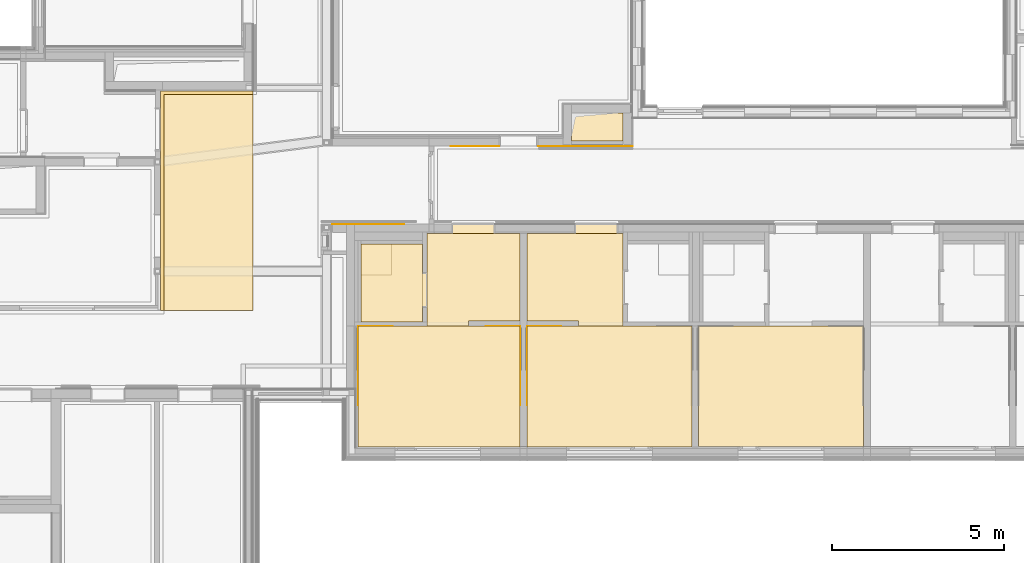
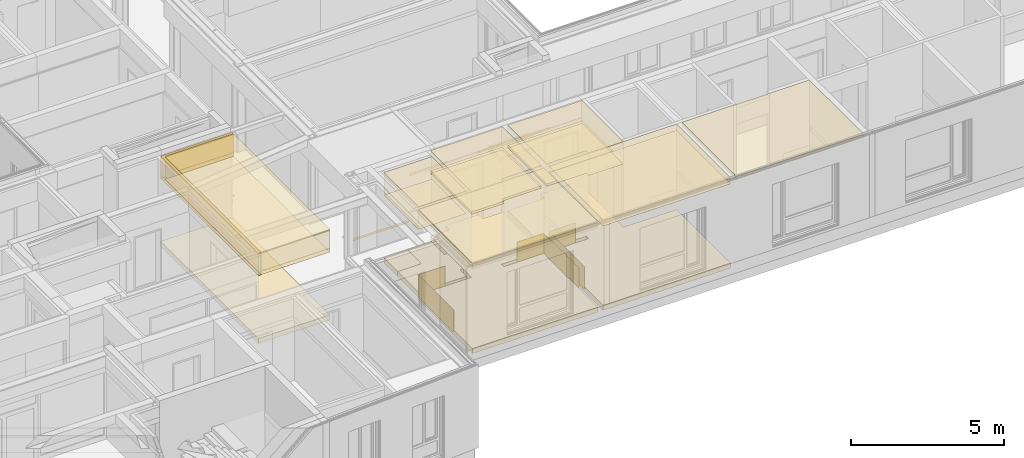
# One storey, part 178 of 207: 41 coverings.
"""IFC4 building model written with IfcOpenShell, lengths in metres."""

import ifcopenshell
import ifcopenshell.guid

model = None  # the IFC model being written
_history = None  # IfcOwnerHistory: only IFC2X3 demands one
_inside = {}  # id of a spatial element -> (the spatial element, [elements in it])
_under = {}  # id of a project, library or spatial element -> (it, [spatial elements below it])
_declared = {}  # id of a project -> (the project, [libraries it declares])
_typed = {}  # id of a type object -> (the type object, [elements of that type])
_made_of = {}  # id of a material, layer set ... -> (it, [elements and type objects made of it])


def new_model(schema):
    """Start an empty IFC model of exactly this schema.

    Asked for "IFC4X3", IfcOpenShell would pick the latest addendum, in which some entities
    have other attributes; the version numbers below select the first issue.
    IFC2X3 requires an IfcOwnerHistory on every rooted entity: one is made here for all.
    """
    global model, _history
    if schema == "IFC4X3":
        model = ifcopenshell.file(schema_version=(4, 3, 0, 0))
    else:
        model = ifcopenshell.file(schema=schema)
    _inside.clear()
    _under.clear()
    _declared.clear()
    _typed.clear()
    _made_of.clear()
    _history = None
    if model.schema == "IFC2X3":
        org = make("IfcOrganization", Name="unknown")
        user = make(
            "IfcPersonAndOrganization",
            ThePerson=make("IfcPerson", FamilyName="unknown"),
            TheOrganization=org,
        )
        app = make(
            "IfcApplication",
            ApplicationDeveloper=org,
            Version="unknown",
            ApplicationFullName="unknown",
            ApplicationIdentifier="unknown",
        )
        _history = make(
            "IfcOwnerHistory",
            OwningUser=user,
            OwningApplication=app,
            ChangeAction="ADDED",
            CreationDate=0,
        )
    return model


def make(cls, **values):
    """One entity of the class cls with the attributes given. An attribute that is None is left unset."""
    return model.create_entity(
        cls, **{name: value for name, value in values.items() if value is not None}
    )


def entity(cls, *values):
    """Any entity or typed value of the class cls, its attributes in the order of the schema. None: left unset."""
    e = model.create_entity(cls)
    for i, value in enumerate(values):
        if value is not None:
            e[i] = value
    return e


def rooted(cls, **values):
    """An entity with a GlobalId (a new one), such as an element, a storey or a relation."""
    return make(cls, GlobalId=ifcopenshell.guid.new(), OwnerHistory=_history, **values)


def si_unit(unit_type, name, prefix=None):
    """IfcSIUnit, for example si_unit("LENGTHUNIT", "METRE", prefix="MILLI")."""
    return make("IfcSIUnit", UnitType=unit_type, Prefix=prefix, Name=name)


def converted_unit(unit_type, name, factor, base, dimensions=None, offset=None):
    """IfcConversionBasedUnit, such as the inch: factor (a typed value) times the base unit."""
    return make(
        "IfcConversionBasedUnit"
        if offset is None
        else "IfcConversionBasedUnitWithOffset",
        ConversionOffset=offset,
        Dimensions=None
        if dimensions is None
        else entity("IfcDimensionalExponents", *dimensions),
        UnitType=unit_type,
        Name=name,
        ConversionFactor=make(
            "IfcMeasureWithUnit", ValueComponent=factor, UnitComponent=base
        ),
    )


def derived_unit(unit_type, elements):
    """IfcDerivedUnit: a product of units, each with its exponent."""
    return make(
        "IfcDerivedUnit",
        Elements=[
            make("IfcDerivedUnitElement", Unit=unit, Exponent=power)
            for unit, power in elements
        ],
        UnitType=unit_type,
    )


def assignment(units):
    """IfcUnitAssignment: the units of a project."""
    return None if units is None else make("IfcUnitAssignment", Units=units)


def point(xyz):
    """IfcCartesianPoint."""
    return None if xyz is None else make("IfcCartesianPoint", Coordinates=xyz)


def direction(xyz):
    """IfcDirection."""
    return None if xyz is None else make("IfcDirection", DirectionRatios=xyz)


def frame(location, z_axis=None, x_axis=None):
    """IfcAxis2Placement3D, a coordinate frame: its origin and axes. An axis left out is left unset."""
    return make(
        "IfcAxis2Placement3D",
        Location=point(location),
        Axis=direction(z_axis),
        RefDirection=direction(x_axis),
    )


def frame_2d(location, x_axis=None):
    """IfcAxis2Placement2D, a coordinate frame in the plane: its origin and x axis."""
    return make(
        "IfcAxis2Placement2D", Location=point(location), RefDirection=direction(x_axis)
    )


def origin():
    """The frame at (0, 0, 0) with its axes left unset."""
    return frame((0.0, 0.0, 0.0))


def origin_with_axes():
    """The frame at (0, 0, 0) with the z axis (0, 0, 1) and the x axis (1, 0, 0) written out."""
    return frame((0.0, 0.0, 0.0), z_axis=(0.0, 0.0, 1.0), x_axis=(1.0, 0.0, 0.0))


def place(relative_to, where):
    """IfcLocalPlacement: puts the frame where relative to a parent placement (None: the world)."""
    return make(
        "IfcLocalPlacement", PlacementRelTo=relative_to, RelativePlacement=where
    )


def context(
    kind, dimensions, precision=None, world=None, true_north=None, identifier=None
):
    """IfcGeometricRepresentationContext, for example the 3D "Model" context."""
    return make(
        "IfcGeometricRepresentationContext",
        ContextIdentifier=identifier,
        ContextType=kind,
        CoordinateSpaceDimension=dimensions,
        Precision=precision,
        WorldCoordinateSystem=world,
        TrueNorth=true_north,
    )


def subcontext(parent, identifier, kind, view, scale=None):
    """IfcGeometricRepresentationSubContext, for example "Body" below "Model"."""
    return make(
        "IfcGeometricRepresentationSubContext",
        ContextIdentifier=identifier,
        ContextType=kind,
        ParentContext=parent,
        TargetScale=scale,
        TargetView=view,
    )


def project(units=None, contexts=None):
    """IfcProject with its units and contexts."""
    return rooted(
        "IfcProject",
        Name="project",
        RepresentationContexts=contexts,
        UnitsInContext=assignment(units),
    )


def spatial(cls, under=None, at=None, **own):
    """A site, building, storey or space (cls), placed at a placement, below another one or the project."""
    s = rooted(cls, ObjectPlacement=at, **own)
    if under is not None:
        _under.setdefault(under.id(), (under, []))[1].append(s)
    return s


def polyline(points):
    """IfcPolyline through the points."""
    return make("IfcPolyline", Points=[point(p) for p in points])


def profile(cls, at=None, kind="AREA", **sizes):
    """A parametric profile (cls). Its sizes go by their IFC names, for example OverallWidth=200.0."""
    return make(cls, ProfileType=kind, Position=at, **sizes)


def rectangle(**sizes):
    """IfcRectangleProfileDef."""
    return profile("IfcRectangleProfileDef", **sizes)


def outline(outer, holes=None, kind="AREA"):
    """IfcArbitraryClosedProfileDef: a profile drawn as a closed curve; with holes, ...WithVoids."""
    if holes is None:
        return make("IfcArbitraryClosedProfileDef", ProfileType=kind, OuterCurve=outer)
    return make(
        "IfcArbitraryProfileDefWithVoids",
        ProfileType=kind,
        OuterCurve=outer,
        InnerCurves=holes,
    )


def extrude(swept, where, along, depth):
    """IfcExtrudedAreaSolid: the profile swept, set in the frame where, extruded along a direction by depth."""
    return make(
        "IfcExtrudedAreaSolid",
        SweptArea=swept,
        Position=where,
        ExtrudedDirection=direction(along),
        Depth=depth,
    )


def shape(context_of_items, identifier, shape_type, items):
    """IfcShapeRepresentation: the items that make up one representation, for example the "Body"."""
    return make(
        "IfcShapeRepresentation",
        ContextOfItems=context_of_items,
        RepresentationIdentifier=identifier,
        RepresentationType=shape_type,
        Items=items,
    )


def material(Name=None, Category=None):
    """IfcMaterial."""
    return make("IfcMaterial", Name=Name, Category=Category)


def layer(
    of_material, thickness, ventilated=None, Name=None, Category=None, Priority=None
):
    """IfcMaterialLayer: one layer of a wall or slab, of a material (None: an air gap)."""
    return make(
        "IfcMaterialLayer",
        Material=of_material,
        LayerThickness=thickness,
        IsVentilated=ventilated,
        Name=Name,
        Category=Category,
        Priority=Priority,
    )


def layer_set(layers, Name=None):
    """IfcMaterialLayerSet."""
    return make("IfcMaterialLayerSet", MaterialLayers=layers, LayerSetName=Name)


def layer_usage(for_layer_set, set_direction, sense, offset, extent=None):
    """IfcMaterialLayerSetUsage: how a layer set lies in its element."""
    return make(
        "IfcMaterialLayerSetUsage",
        ForLayerSet=for_layer_set,
        LayerSetDirection=set_direction,
        DirectionSense=sense,
        OffsetFromReferenceLine=offset,
        ReferenceExtent=extent,
    )


def made_of(thing, what):
    """Note that an element or type object is made of a material, layer set ...; save() writes the relation."""
    if what is not None:
        _made_of.setdefault(what.id(), (what, []))[1].append(thing)
    return thing


def element(
    cls,
    number,
    at=None,
    inside=None,
    cuts=None,
    type_object=None,
    material=None,
    context=None,
    identifier="Body",
    shape_type=None,
    held_by="IfcProductDefinitionShape",
    body=None,
    shapes=None,
    **own,
):
    """One element of the class cls, such as IfcWall. Its Tag is "e" and its number.

    at: its placement. inside: the storey or other place that contains it. cuts: it is an
    opening in that element (IfcRelVoidsElement). A single representation is given by context,
    identifier, shape_type and body (its items); several are given by shapes. held_by: the class
    of the entity that holds the representations. save() writes the other relations.
    """
    e = rooted(cls, Tag="e%d" % number, ObjectPlacement=at, **own)
    if body is not None:
        shapes = [shape(context, identifier, shape_type, body)]
    if shapes is not None:
        e.Representation = make(held_by, Representations=shapes)
    if inside is not None:
        _inside.setdefault(inside.id(), (inside, []))[1].append(e)
    if cuts is not None:
        rooted(
            "IfcRelVoidsElement", RelatingBuildingElement=cuts, RelatedOpeningElement=e
        )
    if type_object is not None:
        _typed.setdefault(type_object.id(), (type_object, []))[1].append(e)
    return made_of(e, material)


def aggregate(whole, parts):
    """IfcRelAggregates: a whole, such as a stair, and the parts it consists of."""
    return rooted("IfcRelAggregates", RelatingObject=whole, RelatedObjects=parts)


def save(model, path):
    """Write the relations noted so far, then the file.

    IfcRelAggregates (storeys below a building ...), IfcRelContainedInSpatialStructure (elements
    in a storey), IfcRelDefinesByType, IfcRelAssociatesMaterial and IfcRelDeclares: one each for
    every whole, place, type object, material and project.
    """
    for whole, parts in _under.values():
        aggregate(whole, parts)
    for where, things in _inside.values():
        rooted(
            "IfcRelContainedInSpatialStructure",
            RelatedElements=things,
            RelatingStructure=where,
        )
    for kind, things in _typed.values():
        rooted("IfcRelDefinesByType", RelatedObjects=things, RelatingType=kind)
    for what, things in _made_of.values():
        rooted("IfcRelAssociatesMaterial", RelatedObjects=things, RelatingMaterial=what)
    for by, libraries in _declared.values():
        rooted("IfcRelDeclares", RelatingContext=by, RelatedDefinitions=libraries)
    model.write(path)


model = new_model("IFC4")

# Units and contexts
model_context = context("Model", 3, precision=1e-05, world=origin())
body_context = subcontext(model_context, "Body", "Model", "MODEL_VIEW")
ifc_project = project(units=[si_unit("LENGTHUNIT", "METRE"), si_unit("AREAUNIT", "SQUARE_METRE"), si_unit("VOLUMEUNIT", "CUBIC_METRE"), si_unit("MASSUNIT", "GRAM", prefix="KILO"), converted_unit("PLANEANGLEUNIT", "DEGREE", entity("IfcPlaneAngleMeasure", 0.0174532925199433), si_unit("PLANEANGLEUNIT", "RADIAN"), dimensions=[0, 0, 0, 0, 0, 0, 0]), derived_unit("THERMALTRANSMITTANCEUNIT", [(si_unit("POWERUNIT", "WATT"), 1), (si_unit("THERMODYNAMICTEMPERATUREUNIT", "KELVIN"), -1), (si_unit("LENGTHUNIT", "METRE"), -2)]), derived_unit("VOLUMETRICFLOWRATEUNIT", [(si_unit("LENGTHUNIT", "METRE"), 3), (converted_unit("TIMEUNIT", "hour", entity("IfcTimeMeasure", 3600.0), si_unit("TIMEUNIT", "SECOND"), dimensions=[0, 0, 1, 0, 0, 0, 0]), -1), (si_unit("LENGTHUNIT", "METRE"), -1)])], contexts=[model_context])

# Site, building, storey
site_placement = place(None, origin())
site = spatial("IfcSite", under=ifc_project, at=site_placement, Name="Psychiatrie Neubau Wunstorf", CompositionType="ELEMENT")
building_placement = place(site_placement, origin())
building = spatial("IfcBuilding", under=site, at=building_placement, Name="Neubau H2 Stationsgebäude", CompositionType="ELEMENT")
storey_placement = place(building_placement, frame((0.0, 0.0, -0.2)))
storey = spatial("IfcBuildingStorey", under=building, at=storey_placement, Name="H2 Ebene 0", CompositionType="ELEMENT", Elevation=-0.2)

# Covering
ifc_material_1 = material(Name="SE")
ifc_layer_1 = layer(ifc_material_1, 0.19)
ifc_layer_set_1 = layer_set([ifc_layer_1])
ifc_layer_usage_1 = layer_usage(ifc_layer_set_1, "AXIS3", "POSITIVE", 0.0)
covering_1_placement = place(storey_placement, frame((77.4, 7.7575, 0.0)))
element("IfcCovering", 1, at=covering_1_placement, inside=storey, material=ifc_layer_usage_1, Name="Estrich", PredefinedType="FLOORING", context=body_context, shape_type="SweptSolid", body=[
    extrude(rectangle(XDim=0.8175, YDim=1.5, at=frame_2d((0.75, -0.40875), x_axis=(0.0, -1.0))), frame((0.0, 0.8175, 0.0), z_axis=(0.0, 0.0, 1.0), x_axis=(1.0, 0.0, 0.0)), (0.0, 0.0, 1.0), 0.19),
])

# Space
space_1_placement = place(storey_placement, frame((59.7893138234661, 0.53600244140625, 0.0)))
space_1 = spatial("IfcSpace", under=storey, at=space_1_placement, Name="WUN-H2-E00-F07", CompositionType="ELEMENT")

# Covering
ifc_material_2 = material(Name="97")
ifc_layer_2 = layer(ifc_material_2, 0.001)
ifc_layer_set_2 = layer_set([ifc_layer_2])
ifc_layer_usage_2 = layer_usage(ifc_layer_set_2, "AXIS3", "POSITIVE", 0.0)
covering_2_placement = place(space_1_placement, frame((10.6406861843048, 4.79649755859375, 0.8)))
element("IfcCovering", 2, at=covering_2_placement, inside=space_1, material=ifc_layer_usage_2, Name="Handlauf", PredefinedType="CLADDING", context=body_context, shape_type="SweptSolid", body=[
    extrude(rectangle(XDim=0.1, YDim=2.09999999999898, at=frame_2d((1.04999999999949, 0.05), x_axis=(0.0, 1.0))), frame((0.0, 0.0, 0.1), z_axis=(0.0, 1.0, 0.0), x_axis=(1.0, 0.0, 0.0)), (0.0, 0.0, 1.0), 0.001),
])

# Space
space_2_placement = place(storey_placement, frame((73.3949999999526, 5.3325, 0.0)))
space_2 = spatial("IfcSpace", under=storey, at=space_2_placement, Name="WUN-H2-E00-F11", CompositionType="ELEMENT")

# Covering
ifc_material_3 = material(Name="97")
ifc_layer_3 = layer(ifc_material_3, 0.001)
ifc_layer_set_3 = layer_set([ifc_layer_3])
ifc_layer_usage_3 = layer_usage(ifc_layer_set_3, "AXIS3", "POSITIVE", 0.0)
covering_3_placement = place(space_2_placement, frame((0.490000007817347, 2.27500000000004, 0.8)))
element("IfcCovering", 3, at=covering_3_placement, inside=space_2, material=ifc_layer_usage_3, Name="Handlauf", PredefinedType="CLADDING", context=body_context, shape_type="SweptSolid", body=[
    extrude(rectangle(XDim=0.1, YDim=2.75999962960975, at=frame_2d((1.37999981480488, 0.05), x_axis=(0.0, 1.0))), frame((5.29499962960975, 0.0, 0.1), z_axis=(-1.64763555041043e-16, -1.0, -4.54747350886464e-15), x_axis=(-1.0, 1.64763555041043e-16, 0.0)), (0.0, 0.0, 1.0), 0.001),
    extrude(rectangle(XDim=0.1, YDim=1.4, at=frame_2d((0.7, 0.05), x_axis=(0.0, 1.0))), frame((1.4, 0.0, 0.1), z_axis=(6.49639072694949e-16, -1.0, 0.0), x_axis=(-1.0, -6.49639072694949e-16, 0.0)), (0.0, 0.0, 1.0), 0.001),
])

# Space
space_3_placement = place(storey_placement, frame((71.2575, 2.48549999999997, 0.0)))
space_3 = spatial("IfcSpace", under=storey, at=space_3_placement, Name="WUN-H2-E00-096a", CompositionType="ELEMENT")

# Coverings
ifc_material_4 = material(Name="Fl1")
ifc_layer_4 = layer(ifc_material_4, 0.2)
ifc_layer_set_4 = layer_set([ifc_layer_4])
ifc_layer_usage_4 = layer_usage(ifc_layer_set_4, "AXIS3", "POSITIVE", 0.0)
covering_4_placement = place(space_3_placement, origin())
element("IfcCovering", 4, at=covering_4_placement, inside=space_3, material=ifc_layer_usage_4, Name="Fliesen", PredefinedType="FLOORING", context=body_context, shape_type="SweptSolid", body=[
    extrude(rectangle(XDim=0.125, YDim=1.01, at=frame_2d((-0.0625, -0.505), x_axis=(-1.0, 0.0))), frame((1.93, 1.43500000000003, 0.0), z_axis=(0.0, 0.0, 1.0), x_axis=(1.0, 0.0, 0.0)), (0.0, 0.0, 1.0), 0.2),
    extrude(outline(polyline([(0.0, 1.365), (0.0, 0.0), (1.805, 0.0), (1.805, 2.265), (0.9, 2.265), (0.9, 1.365), (0.0, 1.365)])), origin_with_axes(), (0.0, 0.0, 1.0), 0.2),
])
ifc_material_5 = material(Name="Fl2")
ifc_layer_5 = layer(ifc_material_5, 0.2)
ifc_layer_set_5 = layer_set([ifc_layer_5])
ifc_layer_usage_5 = layer_usage(ifc_layer_set_5, "AXIS3", "POSITIVE", 0.0)
covering_5_placement = place(space_3_placement, frame((0.0, 1.365, 0.0)))
element("IfcCovering", 5, at=covering_5_placement, inside=space_3, material=ifc_layer_usage_5, Name="Fliesen Mosaik", PredefinedType="FLOORING", context=body_context, shape_type="SweptSolid", body=[
    extrude(rectangle(XDim=0.9, YDim=0.9, at=frame_2d((0.45, -0.45), x_axis=(0.0, -1.0))), frame((0.0, 0.9, 0.0), z_axis=(0.0, 0.0, 1.0), x_axis=(1.0, 0.0, 0.0)), (0.0, 0.0, 1.0), 0.2),
])
ifc_material_6 = material()
ifc_layer_6 = layer(ifc_material_6, 0.036)
ifc_layer_set_6 = layer_set([ifc_layer_6])
ifc_layer_usage_6 = layer_usage(ifc_layer_set_6, "AXIS3", "POSITIVE", 0.0)
covering_6_placement = place(space_3_placement, frame((0.0, 0.0, 3.6)))
element("IfcCovering", 6, at=covering_6_placement, inside=space_3, material=ifc_layer_usage_6, Name="Gipsfaserplatten 2-lagig (BSK)", PredefinedType="CEILING", context=body_context, shape_type="SweptSolid", body=[
    extrude(rectangle(XDim=1.805, YDim=2.26499999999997, at=frame_2d((0.9025, 1.13249999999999), x_axis=(1.0, 0.0))), frame((0.0, 2.265, 0.0), z_axis=(0.0, 0.0, -1.0), x_axis=(1.0, 0.0, 0.0)), (0.0, 0.0, 1.0), 0.036),
])
ifc_material_7 = material(Name="Installationshöhe")
ifc_layer_7 = layer(ifc_material_7, 0.764)
ifc_layer_set_7 = layer_set([ifc_layer_7])
ifc_layer_usage_7 = layer_usage(ifc_layer_set_7, "AXIS3", "POSITIVE", 0.0)
covering_7_placement = place(space_3_placement, frame((0.0, 0.0, 3.564)))
element("IfcCovering", 7, at=covering_7_placement, inside=space_3, material=ifc_layer_usage_7, Name="Gipsfaserplatten 2-lagig (BSK)", PredefinedType="CEILING", context=body_context, shape_type="SweptSolid", body=[
    extrude(rectangle(XDim=1.805, YDim=2.26499999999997, at=frame_2d((0.9025, 1.13249999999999), x_axis=(1.0, 0.0))), frame((0.0, 2.265, 0.0), z_axis=(0.0, 0.0, -1.0), x_axis=(1.0, 0.0, 0.0)), (0.0, 0.0, 1.0), 0.764),
])
ifc_material_8 = material(Name="B")
ifc_layer_8 = layer(ifc_material_8, 0.1)
ifc_layer_set_8 = layer_set([ifc_layer_8])
ifc_layer_usage_8 = layer_usage(ifc_layer_set_8, "AXIS3", "POSITIVE", 0.0)
covering_8_placement = place(space_3_placement, frame((0.0, 0.0, 2.8)))
element("IfcCovering", 8, at=covering_8_placement, inside=space_3, material=ifc_layer_usage_8, Name="Gipskarton, imprägniert", PredefinedType="CEILING", context=body_context, shape_type="SweptSolid", body=[
    extrude(rectangle(XDim=1.805, YDim=2.26499999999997, at=frame_2d((0.9025, 1.13249999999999), x_axis=(1.0, 0.0))), frame((0.0, 2.265, 0.0), z_axis=(0.0, 0.0, -1.0), x_axis=(1.0, 0.0, 0.0)), (0.0, 0.0, 1.0), 0.1),
])
ifc_material_9 = material(Name="D1")
ifc_layer_9 = layer(ifc_material_9, 0.001)
ifc_layer_set_9 = layer_set([ifc_layer_9])
ifc_layer_usage_9 = layer_usage(ifc_layer_set_9, "AXIS3", "POSITIVE", 0.0)
covering_9_placement = place(space_3_placement, frame((0.0, 0.0, 2.7)))
element("IfcCovering", 9, at=covering_9_placement, inside=space_3, material=ifc_layer_usage_9, Name="Gipsfaserplatten 2-lagig (BSK)", PredefinedType="CEILING", context=body_context, shape_type="SweptSolid", body=[
    extrude(rectangle(XDim=1.805, YDim=2.26499999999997, at=frame_2d((0.9025, 1.13249999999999), x_axis=(1.0, 0.0))), frame((0.0, 2.265, 0.0), z_axis=(0.0, 0.0, -1.0), x_axis=(1.0, 0.0, 0.0)), (0.0, 0.0, 1.0), 0.001),
])

# Space
space_4_placement = place(storey_placement, frame((65.4249963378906, 2.8174996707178, 0.0)))
space_4 = spatial("IfcSpace", under=storey, at=space_4_placement, Name="WUN-H2-E00-F09b", CompositionType="ELEMENT")

# Coverings
ifc_material_10 = material(Name="Ku1")
ifc_layer_10 = layer(ifc_material_10, 0.2)
ifc_layer_set_10 = layer_set([ifc_layer_10])
ifc_layer_usage_10 = layer_usage(ifc_layer_set_10, "AXIS3", "POSITIVE", 0.0)
covering_10_placement = place(space_4_placement, origin())
element("IfcCovering", 10, at=covering_10_placement, inside=space_4, material=ifc_layer_usage_10, Name="PVC Bahnenware Holzoptik", PredefinedType="FLOORING", context=body_context, shape_type="SweptSolid", body=[
    extrude(rectangle(XDim=6.38750038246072, YDim=2.69250366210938, at=frame_2d((1.34625183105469, -3.19375018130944), x_axis=(0.0, -1.0))), frame((0.0, 6.38750038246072, 0.0), z_axis=(0.0, 0.0, 1.0), x_axis=(1.0, 0.0, 0.0)), (0.0, 0.0, 1.0), 0.2),
])
ifc_material_11 = material()
ifc_layer_11 = layer(ifc_material_11, 0.036)
ifc_layer_set_11 = layer_set([ifc_layer_11])
ifc_layer_usage_11 = layer_usage(ifc_layer_set_11, "AXIS3", "POSITIVE", 0.0)
covering_11_placement = place(space_4_placement, frame((0.1, 0.0, 3.6)))
element("IfcCovering", 11, at=covering_11_placement, inside=space_4, material=ifc_layer_usage_11, Name="Gipsfaserplatten 2-lagig (BSK)", PredefinedType="CEILING", context=body_context, shape_type="SweptSolid", body=[
    extrude(rectangle(XDim=6.28750036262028, YDim=2.59250366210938, at=frame_2d((-1.29625183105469, 3.14375019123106), x_axis=(0.0, 1.0))), frame((2.59250366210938, 6.28750038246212, 0.0), z_axis=(0.0, 0.0, -1.0), x_axis=(1.0, 0.0, 0.0)), (0.0, 0.0, 1.0), 0.036),
])
ifc_material_12 = material(Name="Installationshöhe")
ifc_layer_12 = layer(ifc_material_12, 0.714)
ifc_layer_set_12 = layer_set([ifc_layer_12])
ifc_layer_usage_12 = layer_usage(ifc_layer_set_12, "AXIS3", "POSITIVE", 0.0)
covering_12_placement = place(space_4_placement, frame((0.1, 0.0, 3.564)))
element("IfcCovering", 12, at=covering_12_placement, inside=space_4, material=ifc_layer_usage_12, Name="Gipsfaserplatten 2-lagig (BSK)", PredefinedType="CEILING", context=body_context, shape_type="SweptSolid", body=[
    extrude(rectangle(XDim=6.28750036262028, YDim=2.59250366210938, at=frame_2d((-1.29625183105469, 3.14375019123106), x_axis=(0.0, 1.0))), frame((2.59250366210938, 6.28750038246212, 0.0), z_axis=(0.0, 0.0, -1.0), x_axis=(1.0, 0.0, 0.0)), (0.0, 0.0, 1.0), 0.714),
])
ifc_material_13 = material(Name="Aa")
ifc_layer_13 = layer(ifc_material_13, 0.15)
ifc_layer_set_13 = layer_set([ifc_layer_13])
ifc_layer_usage_13 = layer_usage(ifc_layer_set_13, "AXIS3", "POSITIVE", 0.0)
covering_13_placement = place(space_4_placement, frame((0.1, 0.0, 2.85)))
element("IfcCovering", 13, at=covering_13_placement, inside=space_4, material=ifc_layer_usage_13, Name="Gipsfaserplatten 2-lagig (BSK)", PredefinedType="CEILING", context=body_context, shape_type="SweptSolid", body=[
    extrude(rectangle(XDim=6.28750036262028, YDim=2.59250366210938, at=frame_2d((-1.29625183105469, 3.14375019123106), x_axis=(0.0, 1.0))), frame((2.59250366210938, 6.28750038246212, 0.0), z_axis=(0.0, 0.0, -1.0), x_axis=(1.0, 0.0, 0.0)), (0.0, 0.0, 1.0), 0.15),
])
ifc_material_14 = material(Name="D1")
ifc_layer_14 = layer(ifc_material_14, 0.001)
ifc_layer_set_14 = layer_set([ifc_layer_14])
ifc_layer_usage_14 = layer_usage(ifc_layer_set_14, "AXIS3", "POSITIVE", 0.0)
covering_14_placement = place(space_4_placement, frame((0.1, 0.0, 2.7)))
element("IfcCovering", 14, at=covering_14_placement, inside=space_4, material=ifc_layer_usage_14, Name="Gipsfaserplatten 2-lagig (BSK)", PredefinedType="CEILING", context=body_context, shape_type="SweptSolid", body=[
    extrude(rectangle(XDim=6.28750036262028, YDim=2.59250366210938, at=frame_2d((-1.29625183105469, 3.14375019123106), x_axis=(0.0, 1.0))), frame((2.59250366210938, 6.28750038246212, 0.0), z_axis=(0.0, 0.0, -1.0), x_axis=(1.0, 0.0, 0.0)), (0.0, 0.0, 1.0), 0.001),
])
ifc_material_15 = material()
ifc_layer_15 = layer(ifc_material_15, 0.036)
ifc_layer_set_15 = layer_set([ifc_layer_15])
ifc_layer_usage_15 = layer_usage(ifc_layer_set_15, "AXIS3", "POSITIVE", 0.0)
covering_15_placement = place(space_4_placement, frame((0.0, 0.0, 3.6)))
element("IfcCovering", 15, at=covering_15_placement, inside=space_4, material=ifc_layer_usage_15, Name="Gipsfaserplatten 2-lagig (BSK)", PredefinedType="CEILING", context=body_context, shape_type="SweptSolid", body=[
    extrude(outline(polyline([(0.0, 6.38750038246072), (0.0, 0.0), (2.69250366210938, 0.0), (2.69250366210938, 0.0999999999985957), (0.1, 0.0999999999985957), (0.1, 6.38750038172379), (0.0, 6.38750038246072)])), frame((0.0, 6.38750038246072, 0.0), z_axis=(0.0, 0.0, -1.0), x_axis=(1.0, 0.0, 0.0)), (0.0, 0.0, 1.0), 0.036),
])
ifc_material_16 = material(Name="Installationshöhe")
ifc_layer_16 = layer(ifc_material_16, 0.714)
ifc_layer_set_16 = layer_set([ifc_layer_16])
ifc_layer_usage_16 = layer_usage(ifc_layer_set_16, "AXIS3", "POSITIVE", 0.0)
covering_16_placement = place(space_4_placement, frame((0.0, 0.0, 3.564)))
element("IfcCovering", 16, at=covering_16_placement, inside=space_4, material=ifc_layer_usage_16, Name="Gipsfaserplatten 2-lagig (BSK)", PredefinedType="CEILING", context=body_context, shape_type="SweptSolid", body=[
    extrude(outline(polyline([(0.0, 6.38750038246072), (0.0, 0.0), (2.69250366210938, 0.0), (2.69250366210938, 0.0999999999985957), (0.1, 0.0999999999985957), (0.1, 6.38750038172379), (0.0, 6.38750038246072)])), frame((0.0, 6.38750038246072, 0.0), z_axis=(0.0, 0.0, -1.0), x_axis=(1.0, 0.0, 0.0)), (0.0, 0.0, 1.0), 0.714),
])
ifc_material_17 = material(Name="A1")
ifc_layer_17 = layer(ifc_material_17, 0.15)
ifc_layer_set_17 = layer_set([ifc_layer_17])
ifc_layer_usage_17 = layer_usage(ifc_layer_set_17, "AXIS3", "POSITIVE", 0.0)
covering_17_placement = place(space_4_placement, frame((0.0, 0.0, 2.85)))
element("IfcCovering", 17, at=covering_17_placement, inside=space_4, material=ifc_layer_usage_17, Name="Gipsfaserplatten 2-lagig (BSK)", PredefinedType="CEILING", context=body_context, shape_type="SweptSolid", body=[
    extrude(outline(polyline([(0.0, 6.38750038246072), (0.0, 0.0), (2.69250366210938, 0.0), (2.69250366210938, 0.0999999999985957), (0.1, 0.0999999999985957), (0.1, 6.38750038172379), (0.0, 6.38750038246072)])), frame((0.0, 6.38750038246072, 0.0), z_axis=(0.0, 0.0, -1.0), x_axis=(1.0, 0.0, 0.0)), (0.0, 0.0, 1.0), 0.15),
])
ifc_material_18 = material(Name="D1")
ifc_layer_18 = layer(ifc_material_18, 0.001)
ifc_layer_set_18 = layer_set([ifc_layer_18])
ifc_layer_usage_18 = layer_usage(ifc_layer_set_18, "AXIS3", "POSITIVE", 0.0)
covering_18_placement = place(space_4_placement, frame((0.0, 0.0, 2.7)))
element("IfcCovering", 18, at=covering_18_placement, inside=space_4, material=ifc_layer_usage_18, Name="Gipsfaserplatten 2-lagig (BSK)", PredefinedType="CEILING", context=body_context, shape_type="SweptSolid", body=[
    extrude(outline(polyline([(0.0, 6.38750038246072), (0.0, 0.0), (2.69250366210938, 0.0), (2.69250366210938, 0.0999999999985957), (0.1, 0.0999999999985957), (0.1, 6.38750038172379), (0.0, 6.38750038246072)])), frame((0.0, 6.38750038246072, 0.0), z_axis=(0.0, 0.0, -1.0), x_axis=(1.0, 0.0, 0.0)), (0.0, 0.0, 1.0), 0.001),
])

# Space
space_5_placement = place(storey_placement, frame((71.1825, -1.16399999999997, 0.0)))
space_5 = spatial("IfcSpace", under=storey, at=space_5_placement, Name="WUN-H2-E00-096", CompositionType="ELEMENT")

# Coverings
ifc_material_19 = material(Name="84")
ifc_layer_19 = layer(ifc_material_19, 0.001)
ifc_layer_set_19 = layer_set([ifc_layer_19])
ifc_layer_usage_19 = layer_usage(ifc_layer_set_19, "AXIS3", "POSITIVE", 0.0)
covering_19_placement = place(space_5_placement, frame((3.7175, 1.22450000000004, 0.1)))
element("IfcCovering", 19, at=covering_19_placement, inside=space_5, material=ifc_layer_usage_19, Name="Acrobyn", PredefinedType="CLADDING", context=body_context, shape_type="SweptSolid", body=[
    extrude(rectangle(XDim=0.9, YDim=1.0, at=frame_2d((-0.5, -0.45), x_axis=(0.0, -1.0))), frame((0.0, 2.3, 0.0), z_axis=(4.54747350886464e-16, -1.0, 0.0), x_axis=(-1.0, -4.54747350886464e-16, 0.0)), (0.0, 0.0, 1.0), 0.001),
    extrude(rectangle(XDim=0.9, YDim=2.3, at=frame_2d((-1.15, -0.45), x_axis=(0.0, -1.0))), frame((1.0, 2.3, 0.0), z_axis=(-1.0, 0.0, 0.0), x_axis=(0.0, 1.0, 0.0)), (0.0, 0.0, 1.0), 0.001),
])
ifc_material_20 = material(Name="84")
ifc_layer_20 = layer(ifc_material_20, 0.001)
ifc_layer_set_20 = layer_set([ifc_layer_20])
ifc_layer_usage_20 = layer_usage(ifc_layer_set_20, "AXIS3", "POSITIVE", 0.0)
covering_20_placement = place(space_5_placement, frame((0.0, 1.22450000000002, 0.1)))
element("IfcCovering", 20, at=covering_20_placement, inside=space_5, material=ifc_layer_usage_20, Name="Acrobyn", PredefinedType="CLADDING", context=body_context, shape_type="SweptSolid", body=[
    extrude(rectangle(XDim=1.0035, YDim=0.9, at=frame_2d((0.50175, -0.45), x_axis=(1.0, 0.0))), frame((1.0035, 2.3, 0.0), z_axis=(0.0, -1.0, 0.0), x_axis=(-1.0, 0.0, 0.0)), (0.0, 0.0, 1.0), 0.001),
    extrude(rectangle(XDim=2.3, YDim=0.9, at=frame_2d((1.15, -0.45), x_axis=(1.0, 0.0))), frame((0.0, 2.3, 0.0), z_axis=(1.0, 0.0, 0.0), x_axis=(0.0, -1.0, 0.0)), (0.0, 0.0, 1.0), 0.001),
])
ifc_material_21 = material(Name="Ku1")
ifc_layer_21 = layer(ifc_material_21, 0.2)
ifc_layer_set_21 = layer_set([ifc_layer_21])
ifc_layer_usage_21 = layer_usage(ifc_layer_set_21, "AXIS3", "POSITIVE", 0.0)
covering_21_placement = place(space_5_placement, origin())
element("IfcCovering", 21, at=covering_21_placement, inside=space_5, material=ifc_layer_usage_21, Name="PVC Bahnenware Holzoptik", PredefinedType="FLOORING", context=body_context, shape_type="SweptSolid", body=[
    extrude(rectangle(XDim=0.272, YDim=1.26, at=frame_2d((-0.63, 0.136), x_axis=(0.0, 1.0))), frame((3.9875, 6.22449999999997, 0.0), z_axis=(0.0, 0.0, 1.0), x_axis=(1.0, 0.0, 0.0)), (0.0, 0.0, 1.0), 0.2),
    extrude(outline(polyline([(3.2175, 3.67449999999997), (4.7175, 3.67449999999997), (4.7175, 6.22449999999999), (2.005, 6.22449999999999), (2.005, 3.52450000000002), (0.0, 3.52450000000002), (0.0, 0.0), (4.7175, 0.0), (4.7175, 3.5245000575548), (3.21749999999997, 3.5245000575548), (3.2175, 3.67449999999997)])), origin_with_axes(), (0.0, 0.0, 1.0), 0.2),
])
ifc_material_22 = material()
ifc_layer_22 = layer(ifc_material_22, 0.036)
ifc_layer_set_22 = layer_set([ifc_layer_22])
ifc_layer_usage_22 = layer_usage(ifc_layer_set_22, "AXIS3", "POSITIVE", 0.0)
covering_22_placement = place(space_5_placement, frame((2.005, 3.52450000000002, 3.6)))
element("IfcCovering", 22, at=covering_22_placement, inside=space_5, material=ifc_layer_usage_22, Name="Gipsfaserplatten 2-lagig (BSK)", PredefinedType="CEILING", context=body_context, shape_type="SweptSolid", body=[
    extrude(outline(polyline([(1.21249999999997, 2.69999999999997), (0.0, 2.69999999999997), (0.0, 0.0), (2.7125, 0.0), (2.71250000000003, 2.55000000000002), (1.2125, 2.55000000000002), (1.21249999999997, 2.69999999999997)])), frame((0.0, 2.69999999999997, 0.0), z_axis=(0.0, 0.0, -1.0), x_axis=(1.0, 0.0, 0.0)), (0.0, 0.0, 1.0), 0.036),
])
ifc_material_23 = material(Name="Installationshöhe")
ifc_layer_23 = layer(ifc_material_23, 0.764)
ifc_layer_set_23 = layer_set([ifc_layer_23])
ifc_layer_usage_23 = layer_usage(ifc_layer_set_23, "AXIS3", "POSITIVE", 0.0)
covering_23_placement = place(space_5_placement, frame((2.005, 3.52450000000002, 3.564)))
element("IfcCovering", 23, at=covering_23_placement, inside=space_5, material=ifc_layer_usage_23, Name="Gipsfaserplatten 2-lagig (BSK)", PredefinedType="CEILING", context=body_context, shape_type="SweptSolid", body=[
    extrude(outline(polyline([(1.21249999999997, 2.69999999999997), (0.0, 2.69999999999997), (0.0, 0.0), (2.7125, 0.0), (2.71250000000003, 2.55000000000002), (1.2125, 2.55000000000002), (1.21249999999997, 2.69999999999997)])), frame((0.0, 2.69999999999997, 0.0), z_axis=(0.0, 0.0, -1.0), x_axis=(1.0, 0.0, 0.0)), (0.0, 0.0, 1.0), 0.764),
])
ifc_material_24 = material(Name="A1")
ifc_layer_24 = layer(ifc_material_24, 0.1)
ifc_layer_set_24 = layer_set([ifc_layer_24])
ifc_layer_usage_24 = layer_usage(ifc_layer_set_24, "AXIS3", "POSITIVE", 0.0)
covering_24_placement = place(space_5_placement, frame((2.005, 3.52450000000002, 2.8)))
element("IfcCovering", 24, at=covering_24_placement, inside=space_5, material=ifc_layer_usage_24, Name="Gipsfaserplatten 2-lagig (BSK)", PredefinedType="CEILING", context=body_context, shape_type="SweptSolid", body=[
    extrude(outline(polyline([(1.21249999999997, 2.69999999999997), (0.0, 2.69999999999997), (0.0, 0.0), (2.7125, 0.0), (2.71250000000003, 2.55000000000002), (1.2125, 2.55000000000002), (1.21249999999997, 2.69999999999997)])), frame((0.0, 2.69999999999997, 0.0), z_axis=(0.0, 0.0, -1.0), x_axis=(1.0, 0.0, 0.0)), (0.0, 0.0, 1.0), 0.1),
])
ifc_material_25 = material(Name="D1")
ifc_layer_25 = layer(ifc_material_25, 0.001)
ifc_layer_set_25 = layer_set([ifc_layer_25])
ifc_layer_usage_25 = layer_usage(ifc_layer_set_25, "AXIS3", "POSITIVE", 0.0)
covering_25_placement = place(space_5_placement, frame((2.005, 3.52450000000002, 2.7)))
element("IfcCovering", 25, at=covering_25_placement, inside=space_5, material=ifc_layer_usage_25, Name="Gipsfaserplatten 2-lagig (BSK)", PredefinedType="CEILING", context=body_context, shape_type="SweptSolid", body=[
    extrude(outline(polyline([(1.21249999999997, 2.69999999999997), (0.0, 2.69999999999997), (0.0, 0.0), (2.7125, 0.0), (2.71250000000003, 2.55000000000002), (1.2125, 2.55000000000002), (1.21249999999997, 2.69999999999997)])), frame((0.0, 2.69999999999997, 0.0), z_axis=(0.0, 0.0, -1.0), x_axis=(1.0, 0.0, 0.0)), (0.0, 0.0, 1.0), 0.001),
])
ifc_material_26 = material()
ifc_layer_26 = layer(ifc_material_26, 0.036)
ifc_layer_set_26 = layer_set([ifc_layer_26])
ifc_layer_usage_26 = layer_usage(ifc_layer_set_26, "AXIS3", "POSITIVE", 0.0)
covering_26_placement = place(space_5_placement, frame((0.0, 0.0, 3.6)))
element("IfcCovering", 26, at=covering_26_placement, inside=space_5, material=ifc_layer_usage_26, Name="Gipsfaserplatten 2-lagig (BSK)", PredefinedType="CEILING", context=body_context, shape_type="SweptSolid", body=[
    extrude(rectangle(XDim=3.5245000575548, YDim=4.7175, at=frame_2d((-2.35875, 1.7622500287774), x_axis=(0.0, 1.0))), frame((4.7175, 3.5245000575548, 0.0), z_axis=(0.0, 0.0, -1.0), x_axis=(1.0, 0.0, 0.0)), (0.0, 0.0, 1.0), 0.036),
])
ifc_material_27 = material(Name="Installationshöhe")
ifc_layer_27 = layer(ifc_material_27, 0.114)
ifc_layer_set_27 = layer_set([ifc_layer_27])
ifc_layer_usage_27 = layer_usage(ifc_layer_set_27, "AXIS3", "POSITIVE", 0.0)
covering_27_placement = place(space_5_placement, frame((0.0, 0.0, 3.564)))
element("IfcCovering", 27, at=covering_27_placement, inside=space_5, material=ifc_layer_usage_27, Name="Gipsfaserplatten 2-lagig (BSK)", PredefinedType="CEILING", context=body_context, shape_type="SweptSolid", body=[
    extrude(rectangle(XDim=3.5245000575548, YDim=4.7175, at=frame_2d((-2.35875, 1.7622500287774), x_axis=(0.0, 1.0))), frame((4.7175, 3.5245000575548, 0.0), z_axis=(0.0, 0.0, -1.0), x_axis=(1.0, 0.0, 0.0)), (0.0, 0.0, 1.0), 0.114),
])
ifc_material_28 = material(Name="A1")
ifc_layer_28 = layer(ifc_material_28, 0.1)
ifc_layer_set_28 = layer_set([ifc_layer_28])
ifc_layer_usage_28 = layer_usage(ifc_layer_set_28, "AXIS3", "POSITIVE", 0.0)
covering_28_placement = place(space_5_placement, frame((0.0, 0.0, 3.45)))
element("IfcCovering", 28, at=covering_28_placement, inside=space_5, material=ifc_layer_usage_28, Name="Gipsfaserplatten 2-lagig (BSK)", PredefinedType="CEILING", context=body_context, shape_type="SweptSolid", body=[
    extrude(rectangle(XDim=3.5245000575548, YDim=4.7175, at=frame_2d((-2.35875, 1.7622500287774), x_axis=(0.0, 1.0))), frame((4.7175, 3.5245000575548, 0.0), z_axis=(0.0, 0.0, -1.0), x_axis=(1.0, 0.0, 0.0)), (0.0, 0.0, 1.0), 0.1),
])
ifc_material_29 = material(Name="D1")
ifc_layer_29 = layer(ifc_material_29, 0.001)
ifc_layer_set_29 = layer_set([ifc_layer_29])
ifc_layer_usage_29 = layer_usage(ifc_layer_set_29, "AXIS3", "POSITIVE", 0.0)
covering_29_placement = place(space_5_placement, frame((0.0, 0.0, 3.35)))
element("IfcCovering", 29, at=covering_29_placement, inside=space_5, material=ifc_layer_usage_29, Name="Gipsfaserplatten 2-lagig (BSK)", PredefinedType="CEILING", context=body_context, shape_type="SweptSolid", body=[
    extrude(rectangle(XDim=3.5245000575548, YDim=4.7175, at=frame_2d((-2.35875, 1.7622500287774), x_axis=(0.0, 1.0))), frame((4.7175, 3.5245000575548, 0.0), z_axis=(0.0, 0.0, -1.0), x_axis=(1.0, 0.0, 0.0)), (0.0, 0.0, 1.0), 0.001),
])

# Space
space_6_placement = place(storey_placement, frame((81.1, -1.16399999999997, 0.0)))
space_6 = spatial("IfcSpace", under=storey, at=space_6_placement, Name="WUN-H2-E00-094", CompositionType="ELEMENT")

# Coverings
ifc_material_30 = material()
ifc_layer_30 = layer(ifc_material_30, 0.036)
ifc_layer_set_30 = layer_set([ifc_layer_30])
ifc_layer_usage_30 = layer_usage(ifc_layer_set_30, "AXIS3", "POSITIVE", 0.0)
covering_30_placement = place(space_6_placement, frame((0.0, 0.0, 3.6)))
element("IfcCovering", 30, at=covering_30_placement, inside=space_6, material=ifc_layer_usage_30, Name="Gipsfaserplatten 2-lagig (BSK)", PredefinedType="CEILING", context=body_context, shape_type="SweptSolid", body=[
    extrude(outline(polyline([(4.80000006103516, 0.0), (4.80000004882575, 3.52450000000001), (0.0, 3.52450000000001), (0.0, 0.0), (4.80000006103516, 0.0)])), frame((0.0, 3.52450000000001, 0.0), z_axis=(0.0, 0.0, -1.0), x_axis=(1.0, 0.0, 0.0)), (0.0, 0.0, 1.0), 0.036),
])
ifc_material_31 = material(Name="Installationshöhe")
ifc_layer_31 = layer(ifc_material_31, 0.114)
ifc_layer_set_31 = layer_set([ifc_layer_31])
ifc_layer_usage_31 = layer_usage(ifc_layer_set_31, "AXIS3", "POSITIVE", 0.0)
covering_31_placement = place(space_6_placement, frame((0.0, 0.0, 3.564)))
element("IfcCovering", 31, at=covering_31_placement, inside=space_6, material=ifc_layer_usage_31, Name="Gipsfaserplatten 2-lagig (BSK)", PredefinedType="CEILING", context=body_context, shape_type="SweptSolid", body=[
    extrude(outline(polyline([(4.80000006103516, 0.0), (4.80000004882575, 3.52450000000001), (0.0, 3.52450000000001), (0.0, 0.0), (4.80000006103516, 0.0)])), frame((0.0, 3.52450000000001, 0.0), z_axis=(0.0, 0.0, -1.0), x_axis=(1.0, 0.0, 0.0)), (0.0, 0.0, 1.0), 0.114),
])

# Space
space_7_placement = place(storey_placement, frame((76.1, -1.16399999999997, 0.0)))
space_7 = spatial("IfcSpace", under=storey, at=space_7_placement, Name="WUN-H2-E00-095", CompositionType="ELEMENT")

# Coverings
ifc_material_32 = material(Name="84")
ifc_layer_32 = layer(ifc_material_32, 0.001)
ifc_layer_set_32 = layer_set([ifc_layer_32])
ifc_layer_usage_32 = layer_usage(ifc_layer_set_32, "AXIS3", "POSITIVE", 0.0)
covering_32_placement = place(space_7_placement, frame((0.0, 1.22450000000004, 0.1)))
element("IfcCovering", 32, at=covering_32_placement, inside=space_7, material=ifc_layer_usage_32, Name="Acrobyn", PredefinedType="CLADDING", context=body_context, shape_type="SweptSolid", body=[
    extrude(rectangle(XDim=1.0, YDim=0.9, at=frame_2d((0.5, -0.45), x_axis=(1.0, 0.0))), frame((1.0, 2.3, 0.0), z_axis=(0.0, -1.0, 0.0), x_axis=(-1.0, 0.0, 0.0)), (0.0, 0.0, 1.0), 0.001),
    extrude(rectangle(XDim=2.3, YDim=0.9, at=frame_2d((1.15, -0.45), x_axis=(1.0, 0.0))), frame((0.0, 2.3, 0.0), z_axis=(1.0, 0.0, 0.0), x_axis=(0.0, -1.0, 0.0)), (0.0, 0.0, 1.0), 0.001),
])
ifc_material_33 = material(Name="Ku1")
ifc_layer_33 = layer(ifc_material_33, 0.2)
ifc_layer_set_33 = layer_set([ifc_layer_33])
ifc_layer_usage_33 = layer_usage(ifc_layer_set_33, "AXIS3", "POSITIVE", 0.0)
covering_33_placement = place(space_7_placement, origin())
element("IfcCovering", 33, at=covering_33_placement, inside=space_7, material=ifc_layer_usage_33, Name="PVC Bahnenware Holzoptik", PredefinedType="FLOORING", context=body_context, shape_type="SweptSolid", body=[
    extrude(rectangle(XDim=0.272, YDim=1.26, at=frame_2d((-0.63, 0.136), x_axis=(0.0, 1.0))), frame((2.65, 6.22449999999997, 0.0), z_axis=(0.0, 0.0, 1.0), x_axis=(1.0, 0.0, 0.0)), (0.0, 0.0, 1.0), 0.2),
    extrude(outline(polyline([(1.49999999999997, 3.52449999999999), (0.0, 3.52449999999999), (0.0, 0.0), (4.8, 0.0), (4.8, 3.52450000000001), (2.79999999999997, 3.52450000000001), (2.8, 6.22450000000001), (0.0, 6.22450000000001), (0.0, 3.67449994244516), (1.5, 3.67449994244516), (1.49999999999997, 3.52449999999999)])), origin_with_axes(), (0.0, 0.0, 1.0), 0.2),
])
ifc_material_34 = material()
ifc_layer_34 = layer(ifc_material_34, 0.036)
ifc_layer_set_34 = layer_set([ifc_layer_34])
ifc_layer_usage_34 = layer_usage(ifc_layer_set_34, "AXIS3", "POSITIVE", 0.0)
covering_34_placement = place(space_7_placement, frame((0.0, 3.52450000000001, 3.6)))
element("IfcCovering", 34, at=covering_34_placement, inside=space_7, material=ifc_layer_usage_34, Name="Gipsfaserplatten 2-lagig (BSK)", PredefinedType="CEILING", context=body_context, shape_type="SweptSolid", body=[
    extrude(outline(polyline([(1.49999999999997, 2.70000000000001), (1.5, 2.55000005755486), (0.0, 2.55000005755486), (0.0, 0.0), (2.8, 0.0), (2.79999999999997, 2.70000000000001), (1.49999999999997, 2.70000000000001)])), frame((0.0, 2.70000000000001, 0.0), z_axis=(0.0, 0.0, -1.0), x_axis=(1.0, 0.0, 0.0)), (0.0, 0.0, 1.0), 0.036),
])
ifc_material_35 = material(Name="Installationshöhe")
ifc_layer_35 = layer(ifc_material_35, 0.764)
ifc_layer_set_35 = layer_set([ifc_layer_35])
ifc_layer_usage_35 = layer_usage(ifc_layer_set_35, "AXIS3", "POSITIVE", 0.0)
covering_35_placement = place(space_7_placement, frame((0.0, 3.52450000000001, 3.564)))
element("IfcCovering", 35, at=covering_35_placement, inside=space_7, material=ifc_layer_usage_35, Name="Gipsfaserplatten 2-lagig (BSK)", PredefinedType="CEILING", context=body_context, shape_type="SweptSolid", body=[
    extrude(outline(polyline([(1.49999999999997, 2.70000000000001), (1.5, 2.55000005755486), (0.0, 2.55000005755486), (0.0, 0.0), (2.8, 0.0), (2.79999999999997, 2.70000000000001), (1.49999999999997, 2.70000000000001)])), frame((0.0, 2.70000000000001, 0.0), z_axis=(0.0, 0.0, -1.0), x_axis=(1.0, 0.0, 0.0)), (0.0, 0.0, 1.0), 0.764),
])
ifc_material_36 = material(Name="A1")
ifc_layer_36 = layer(ifc_material_36, 0.1)
ifc_layer_set_36 = layer_set([ifc_layer_36])
ifc_layer_usage_36 = layer_usage(ifc_layer_set_36, "AXIS3", "POSITIVE", 0.0)
covering_36_placement = place(space_7_placement, frame((0.0, 3.52450000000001, 2.8)))
element("IfcCovering", 36, at=covering_36_placement, inside=space_7, material=ifc_layer_usage_36, Name="Gipsfaserplatten 2-lagig (BSK)", PredefinedType="CEILING", context=body_context, shape_type="SweptSolid", body=[
    extrude(outline(polyline([(1.49999999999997, 2.70000000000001), (1.5, 2.55000005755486), (0.0, 2.55000005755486), (0.0, 0.0), (2.8, 0.0), (2.79999999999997, 2.70000000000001), (1.49999999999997, 2.70000000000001)])), frame((0.0, 2.70000000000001, 0.0), z_axis=(0.0, 0.0, -1.0), x_axis=(1.0, 0.0, 0.0)), (0.0, 0.0, 1.0), 0.1),
])
ifc_material_37 = material(Name="D1")
ifc_layer_37 = layer(ifc_material_37, 0.001)
ifc_layer_set_37 = layer_set([ifc_layer_37])
ifc_layer_usage_37 = layer_usage(ifc_layer_set_37, "AXIS3", "POSITIVE", 0.0)
covering_37_placement = place(space_7_placement, frame((0.0, 3.52450000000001, 2.7)))
element("IfcCovering", 37, at=covering_37_placement, inside=space_7, material=ifc_layer_usage_37, Name="Gipsfaserplatten 2-lagig (BSK)", PredefinedType="CEILING", context=body_context, shape_type="SweptSolid", body=[
    extrude(outline(polyline([(1.49999999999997, 2.70000000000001), (1.5, 2.55000005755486), (0.0, 2.55000005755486), (0.0, 0.0), (2.8, 0.0), (2.79999999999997, 2.70000000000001), (1.49999999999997, 2.70000000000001)])), frame((0.0, 2.70000000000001, 0.0), z_axis=(0.0, 0.0, -1.0), x_axis=(1.0, 0.0, 0.0)), (0.0, 0.0, 1.0), 0.001),
])
ifc_material_38 = material()
ifc_layer_38 = layer(ifc_material_38, 0.036)
ifc_layer_set_38 = layer_set([ifc_layer_38])
ifc_layer_usage_38 = layer_usage(ifc_layer_set_38, "AXIS3", "POSITIVE", 0.0)
covering_38_placement = place(space_7_placement, frame((0.0, 0.0, 3.6)))
element("IfcCovering", 38, at=covering_38_placement, inside=space_7, material=ifc_layer_usage_38, Name="Gipsfaserplatten 2-lagig (BSK)", PredefinedType="CEILING", context=body_context, shape_type="SweptSolid", body=[
    extrude(rectangle(XDim=4.8, YDim=3.52450000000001, at=frame_2d((2.4, 1.76224999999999), x_axis=(1.0, -4.16851738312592e-15))), frame((0.0, 3.52449999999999, 0.0), z_axis=(0.0, 0.0, -1.0), x_axis=(1.0, 0.0, 0.0)), (0.0, 0.0, 1.0), 0.036),
])
ifc_material_39 = material(Name="Installationshöhe")
ifc_layer_39 = layer(ifc_material_39, 0.114)
ifc_layer_set_39 = layer_set([ifc_layer_39])
ifc_layer_usage_39 = layer_usage(ifc_layer_set_39, "AXIS3", "POSITIVE", 0.0)
covering_39_placement = place(space_7_placement, frame((0.0, 0.0, 3.564)))
element("IfcCovering", 39, at=covering_39_placement, inside=space_7, material=ifc_layer_usage_39, Name="Gipsfaserplatten 2-lagig (BSK)", PredefinedType="CEILING", context=body_context, shape_type="SweptSolid", body=[
    extrude(rectangle(XDim=4.8, YDim=3.52450000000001, at=frame_2d((2.4, 1.76224999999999), x_axis=(1.0, -4.16851738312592e-15))), frame((0.0, 3.52449999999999, 0.0), z_axis=(0.0, 0.0, -1.0), x_axis=(1.0, 0.0, 0.0)), (0.0, 0.0, 1.0), 0.114),
])
ifc_material_40 = material(Name="A1")
ifc_layer_40 = layer(ifc_material_40, 0.1)
ifc_layer_set_40 = layer_set([ifc_layer_40])
ifc_layer_usage_40 = layer_usage(ifc_layer_set_40, "AXIS3", "POSITIVE", 0.0)
covering_40_placement = place(space_7_placement, frame((0.0, 0.0, 3.45)))
element("IfcCovering", 40, at=covering_40_placement, inside=space_7, material=ifc_layer_usage_40, Name="Gipsfaserplatten 2-lagig (BSK)", PredefinedType="CEILING", context=body_context, shape_type="SweptSolid", body=[
    extrude(rectangle(XDim=4.8, YDim=3.52450000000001, at=frame_2d((2.4, 1.76224999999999), x_axis=(1.0, -4.16851738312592e-15))), frame((0.0, 3.52449999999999, 0.0), z_axis=(0.0, 0.0, -1.0), x_axis=(1.0, 0.0, 0.0)), (0.0, 0.0, 1.0), 0.1),
])
ifc_material_41 = material(Name="D1")
ifc_layer_41 = layer(ifc_material_41, 0.001)
ifc_layer_set_41 = layer_set([ifc_layer_41])
ifc_layer_usage_41 = layer_usage(ifc_layer_set_41, "AXIS3", "POSITIVE", 0.0)
covering_41_placement = place(space_7_placement, frame((0.0, 0.0, 3.35)))
element("IfcCovering", 41, at=covering_41_placement, inside=space_7, material=ifc_layer_usage_41, Name="Gipsfaserplatten 2-lagig (BSK)", PredefinedType="CEILING", context=body_context, shape_type="SweptSolid", body=[
    extrude(rectangle(XDim=4.8, YDim=3.52450000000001, at=frame_2d((2.4, 1.76224999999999), x_axis=(1.0, -4.16851738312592e-15))), frame((0.0, 3.52449999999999, 0.0), z_axis=(0.0, 0.0, -1.0), x_axis=(1.0, 0.0, 0.0)), (0.0, 0.0, 1.0), 0.001),
])

save(model, "model.ifc")
